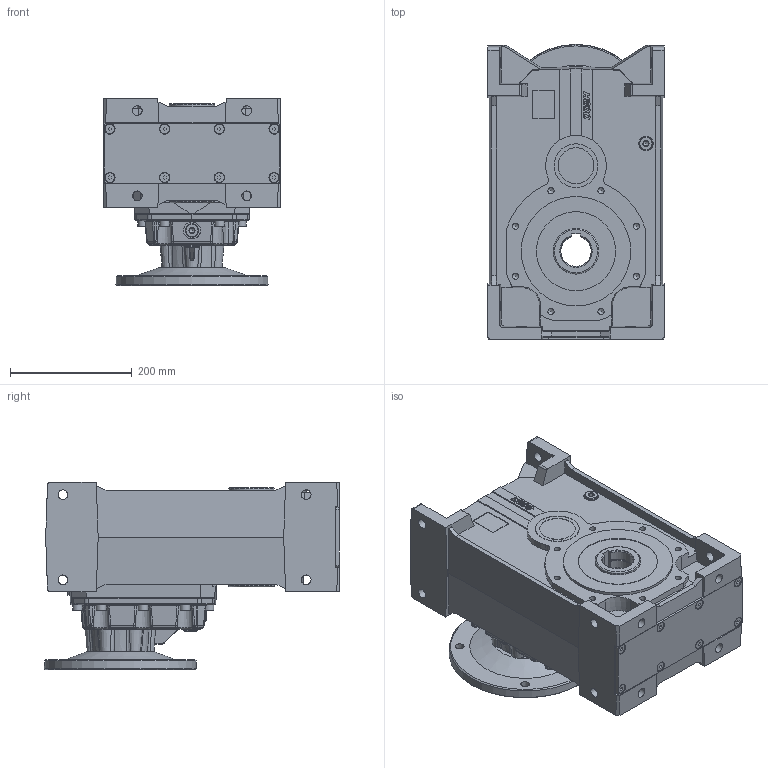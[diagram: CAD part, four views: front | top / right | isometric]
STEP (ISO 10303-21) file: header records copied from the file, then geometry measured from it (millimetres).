
FILE_DESCRIPTION( ( 'Unknown' ), '1' );
FILE_NAME( 'E:/services/configuratordownloads/customers/HYDROMEC/H/download/C3C6F5D687C66FD26FF5883188E2112/STEP/C3C6F5D687C66FD26FF5883188E2112.3d.stp', 'Unknown', ( 'Unknown' ), ( 'Unknown' ), 'PSStep 10.1', 'Unknown', ' ' );
FILE_SCHEMA( ( 'AUTOMOTIVE_DESIGN { 1 0 10303 214 1 1 1 1 }' ) );
Length unit declared in the file: millimetre
Products named in the file (1): H808800
Bounding box: 290 x 485.47 x 307.4 mm (x, y, z)
Volume: 21307640.5 mm3; surface area: 1003036.4 mm2
Topology: 1 solids, 42 shells, 1374 faces, 3384 edges, 2166 vertices
Faces by surface type: plane 687, cylinder 326, bspline 156, cone 149, torus 56
Full cylindrical faces by diameter (mm): 4.917 x14, 7.6 x8, 8 x10, 8.5 x16, 10 x10, 10.106 x8, 11 x10, 14.3 x8, 14.95 x13, 15.6 x8, 16 x22, 17 x8, 22 x16, 24 x6, 28 x2, 44.99 x2, 59 x1, 62 x2, 72 x1, 75 x2, 100 x1, 120 x1, 130 x1, 180 x2
Entity records: 62030 total; most frequent: CARTESIAN_POINT 21678, DIRECTION 5996, ORIENTED_EDGE 5622, EDGE_CURVE 2811, AXIS2_PLACEMENT_3D 2305, VERTEX_POINT 1954, EDGE_LOOP 1859, FACE_OUTER_BOUND 1579
